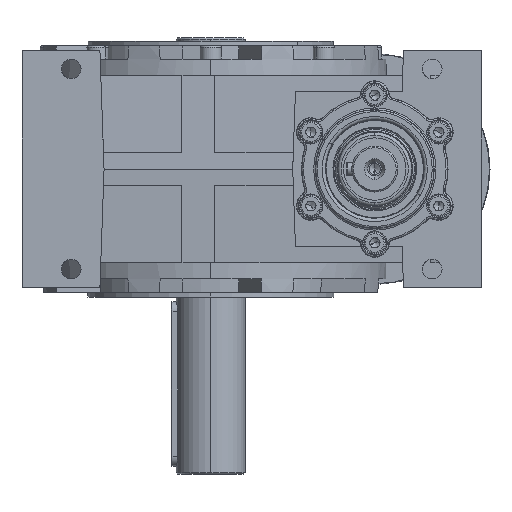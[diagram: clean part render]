
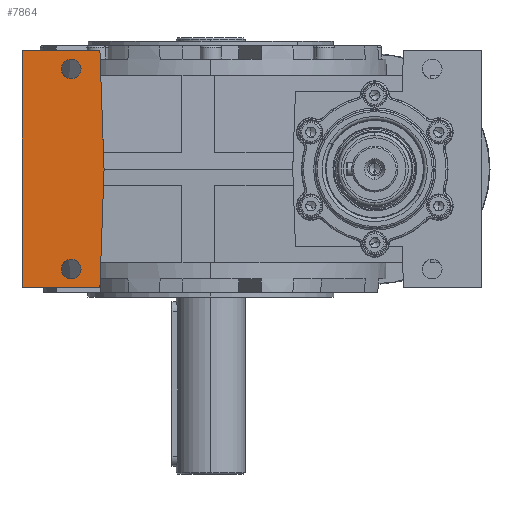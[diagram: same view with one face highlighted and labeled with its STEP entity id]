
A CAD part, left-side view. The second image highlights one B-rep face of the part: STEP entity #7864.
In plain terms, the highlighted planar face has unit normal (-1, 0, 0).
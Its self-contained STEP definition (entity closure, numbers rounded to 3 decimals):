
#379 = CARTESIAN_POINT ( 'NONE',  ( -115., 65., 0. ) ) ;
#775 = CARTESIAN_POINT ( 'NONE',  ( -115., 85., 61. ) ) ;
#970 = CARTESIAN_POINT ( 'NONE',  ( -115., 67.514, 72. ) ) ;
#1017 = VERTEX_POINT ( 'NONE', #970 ) ;
#1256 = VERTEX_POINT ( 'NONE', #379 ) ;
#1367 = VECTOR ( 'NONE', #25533, 1000. ) ;
#1958 = CARTESIAN_POINT ( 'NONE',  ( -115., 115., -78. ) ) ;
#2029 = AXIS2_PLACEMENT_3D ( 'NONE', #9426, #5254, #46475 ) ;
#2639 = EDGE_LOOP ( 'NONE', ( #53941, #53676 ) ) ;
#2802 = VERTEX_POINT ( 'NONE', #42102 ) ;
#3335 = LINE ( 'NONE', #33238, #43802 ) ;
#3932 = AXIS2_PLACEMENT_3D ( 'NONE', #46118, #37830, #8245 ) ;
#4215 = DIRECTION ( 'NONE',  ( 0., 0.035, -0.999 ) ) ;
#4499 = CARTESIAN_POINT ( 'NONE',  ( -115., 79., 61. ) ) ;
#5193 = EDGE_CURVE ( 'NONE', #46148, #47302, #54280, .T. ) ;
#5254 = DIRECTION ( 'NONE',  ( -1., 0., 0. ) ) ;
#7864 = ADVANCED_FACE ( 'NONE', ( #20411, #7959, #29557 ), #9343, .T. ) ;
#7959 = FACE_BOUND ( 'NONE', #2639, .T. ) ;
#8245 = DIRECTION ( 'NONE',  ( 0., -1., 0. ) ) ;
#9016 = CIRCLE ( 'NONE', #48759, 6. ) ;
#9343 = PLANE ( 'NONE',  #3932 ) ;
#9426 = CARTESIAN_POINT ( 'NONE',  ( -115., 85., -61. ) ) ;
#11438 = EDGE_LOOP ( 'NONE', ( #35368, #16295, #54221, #33597, #46789 ) ) ;
#11985 = CARTESIAN_POINT ( 'NONE',  ( -115., 115., 72. ) ) ;
#13525 = DIRECTION ( 'NONE',  ( -1., 0., 0. ) ) ;
#14365 = EDGE_CURVE ( 'NONE', #35819, #2802, #9016, .T. ) ;
#14502 = AXIS2_PLACEMENT_3D ( 'NONE', #775, #13525, #30418 ) ;
#14605 = AXIS2_PLACEMENT_3D ( 'NONE', #23011, #18325, #52335 ) ;
#15109 = EDGE_CURVE ( 'NONE', #49074, #46947, #3335, .T. ) ;
#15681 = VECTOR ( 'NONE', #4215, 1000. ) ;
#16295 = ORIENTED_EDGE ( 'NONE', *, *, #32606, .F. ) ;
#16535 = DIRECTION ( 'NONE',  ( -1., 0., 0. ) ) ;
#17909 = DIRECTION ( 'NONE',  ( 0., -1., 0. ) ) ;
#18067 = VECTOR ( 'NONE', #36529, 1000. ) ;
#18325 = DIRECTION ( 'NONE',  ( -1., 0., 0. ) ) ;
#19245 = EDGE_CURVE ( 'NONE', #47302, #46148, #27852, .T. ) ;
#20411 = FACE_BOUND ( 'NONE', #52824, .T. ) ;
#20487 = EDGE_CURVE ( 'NONE', #2802, #35819, #25892, .T. ) ;
#21601 = EDGE_CURVE ( 'NONE', #46947, #26200, #48145, .T. ) ;
#21662 = LINE ( 'NONE', #29148, #1367 ) ;
#23011 = CARTESIAN_POINT ( 'NONE',  ( -115., 85., 61. ) ) ;
#25533 = DIRECTION ( 'NONE',  ( 0., 0.035, 0.999 ) ) ;
#25892 = CIRCLE ( 'NONE', #2029, 6. ) ;
#26200 = VERTEX_POINT ( 'NONE', #11985 ) ;
#27852 = CIRCLE ( 'NONE', #14605, 6. ) ;
#28815 = DIRECTION ( 'NONE',  ( 0., 1., 0. ) ) ;
#29148 = CARTESIAN_POINT ( 'NONE',  ( -115., 65., 0. ) ) ;
#29557 = FACE_OUTER_BOUND ( 'NONE', #11438, .T. ) ;
#30382 = CARTESIAN_POINT ( 'NONE',  ( -115., 115., -72. ) ) ;
#30418 = DIRECTION ( 'NONE',  ( 0., -1., 0. ) ) ;
#31894 = CARTESIAN_POINT ( 'NONE',  ( -115., 91., -61. ) ) ;
#32606 = EDGE_CURVE ( 'NONE', #26200, #1017, #51364, .T. ) ;
#33238 = CARTESIAN_POINT ( 'NONE',  ( -115., 65., -72. ) ) ;
#33427 = DIRECTION ( 'NONE',  ( 0., -1., 0. ) ) ;
#33597 = ORIENTED_EDGE ( 'NONE', *, *, #15109, .F. ) ;
#34117 = LINE ( 'NONE', #50948, #15681 ) ;
#34799 = CARTESIAN_POINT ( 'NONE',  ( -115., 115., 72. ) ) ;
#35368 = ORIENTED_EDGE ( 'NONE', *, *, #54521, .T. ) ;
#35819 = VERTEX_POINT ( 'NONE', #31894 ) ;
#36529 = DIRECTION ( 'NONE',  ( 0., 0., 1. ) ) ;
#37830 = DIRECTION ( 'NONE',  ( -1., 0., 0. ) ) ;
#38725 = ORIENTED_EDGE ( 'NONE', *, *, #14365, .F. ) ;
#39735 = VECTOR ( 'NONE', #17909, 1000. ) ;
#40598 = CARTESIAN_POINT ( 'NONE',  ( -115., 85., -61. ) ) ;
#42102 = CARTESIAN_POINT ( 'NONE',  ( -115., 79., -61. ) ) ;
#42292 = ORIENTED_EDGE ( 'NONE', *, *, #20487, .F. ) ;
#43715 = EDGE_CURVE ( 'NONE', #1256, #49074, #34117, .T. ) ;
#43802 = VECTOR ( 'NONE', #28815, 1000. ) ;
#44675 = CARTESIAN_POINT ( 'NONE',  ( -115., 67.514, -72. ) ) ;
#46118 = CARTESIAN_POINT ( 'NONE',  ( -115., 115., -78. ) ) ;
#46148 = VERTEX_POINT ( 'NONE', #4499 ) ;
#46475 = DIRECTION ( 'NONE',  ( 0., -1., 0. ) ) ;
#46789 = ORIENTED_EDGE ( 'NONE', *, *, #43715, .F. ) ;
#46947 = VERTEX_POINT ( 'NONE', #30382 ) ;
#47302 = VERTEX_POINT ( 'NONE', #51556 ) ;
#48145 = LINE ( 'NONE', #1958, #18067 ) ;
#48759 = AXIS2_PLACEMENT_3D ( 'NONE', #40598, #16535, #33427 ) ;
#49074 = VERTEX_POINT ( 'NONE', #44675 ) ;
#50948 = CARTESIAN_POINT ( 'NONE',  ( -115., 65., 0. ) ) ;
#51364 = LINE ( 'NONE', #34799, #39735 ) ;
#51556 = CARTESIAN_POINT ( 'NONE',  ( -115., 91., 61. ) ) ;
#52335 = DIRECTION ( 'NONE',  ( 0., -1., 0. ) ) ;
#52824 = EDGE_LOOP ( 'NONE', ( #42292, #38725 ) ) ;
#53676 = ORIENTED_EDGE ( 'NONE', *, *, #19245, .F. ) ;
#53941 = ORIENTED_EDGE ( 'NONE', *, *, #5193, .F. ) ;
#54221 = ORIENTED_EDGE ( 'NONE', *, *, #21601, .F. ) ;
#54280 = CIRCLE ( 'NONE', #14502, 6. ) ;
#54521 = EDGE_CURVE ( 'NONE', #1256, #1017, #21662, .T. ) ;
